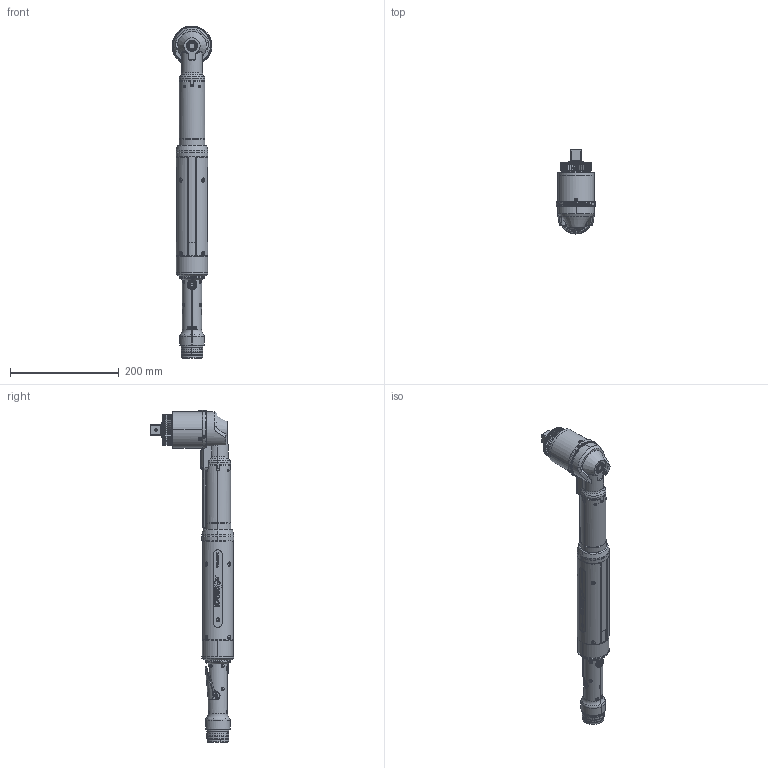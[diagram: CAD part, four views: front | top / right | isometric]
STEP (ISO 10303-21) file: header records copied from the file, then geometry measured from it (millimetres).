
FILE_DESCRIPTION (( 'STEP AP203' ), '1' );
FILE_NAME ('AEN356540A.STEP', '2014-08-26T18:22:55', ( 'AIMCO' ), ( '' ), 'SwSTEP 2.0', 'SolidWorks 2014', '' );
FILE_SCHEMA (( 'CONFIG_CONTROL_DESIGN' ));
Length unit declared in the file: inch
Products named in the file (1): AEN356540A
Bounding box: 73.02 x 153.65 x 610.12 mm (x, y, z)
Surface area: 218234.1 mm2 (no closed solid volume)
Topology: 0 solids, 124 shells, 1591 faces, 5900 edges, 4230 vertices
Faces by surface type: plane 481, cylinder 409, bspline 242, torus 241, cone 208, sphere 10
Entity records: 115565 total; most frequent: CARTESIAN_POINT 70063, ORIENTED_EDGE 9185, DIRECTION 8263, EDGE_CURVE 5900, VERTEX_POINT 4230, AXIS2_PLACEMENT_3D 3063, LINE 2137, VECTOR 2137
